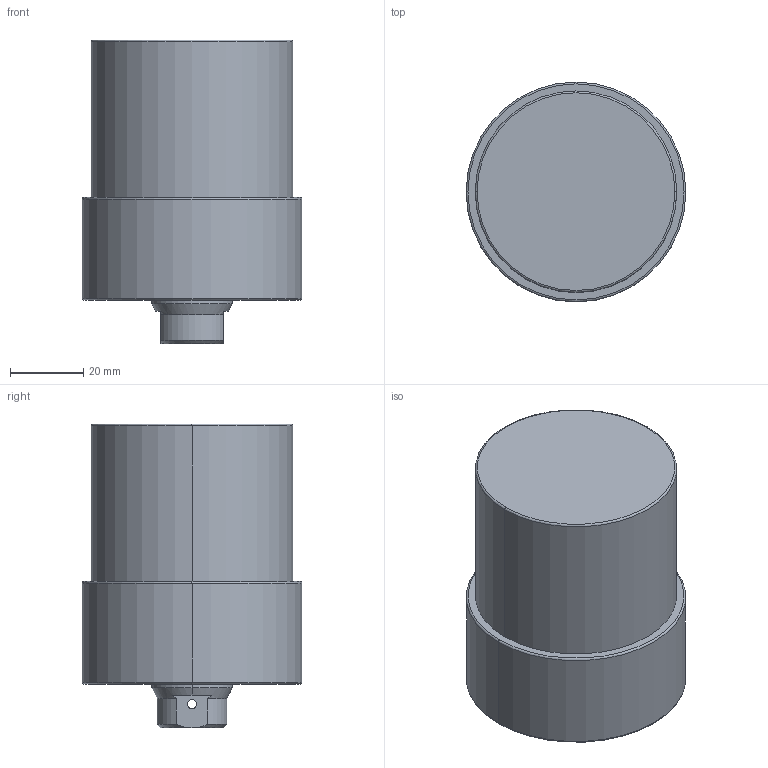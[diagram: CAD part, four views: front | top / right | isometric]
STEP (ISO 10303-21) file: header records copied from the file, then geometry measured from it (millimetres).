
FILE_DESCRIPTION (( 'STEP AP203' ), '1' );
FILE_NAME ('CLLU055-CB-030.STEP', '2017-05-12T11:20:54', ( '' ), ( '' ), 'SwSTEP 2.0', 'SolidWorks 2015', '' );
FILE_SCHEMA (( 'CONFIG_CONTROL_DESIGN' ));
Length unit declared in the file: millimetre
Products named in the file (1): CLLU055-CB-030
Bounding box: 60 x 60 x 83 mm (x, y, z)
Volume: 181619.5 mm3; surface area: 20801 mm2
Topology: 1 solids, 1 shells, 66 faces, 152 edges, 85 vertices
Faces by surface type: cylinder 26, cone 24, plane 10, torus 6
Entity records: 1971 total; most frequent: CARTESIAN_POINT 414, DIRECTION 340, ORIENTED_EDGE 284, AXIS2_PLACEMENT_3D 143, EDGE_CURVE 142, VERTEX_POINT 85, EDGE_LOOP 77, CIRCLE 76
